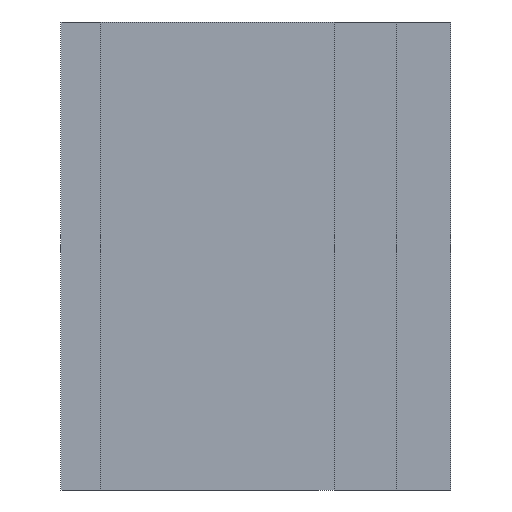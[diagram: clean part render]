
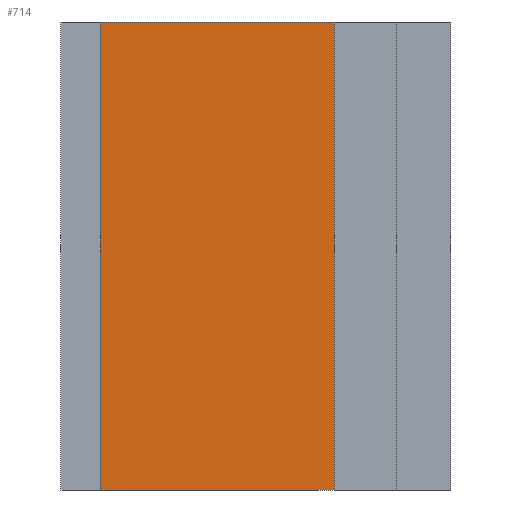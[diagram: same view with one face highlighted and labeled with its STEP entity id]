
A CAD part, left-side view. The second image highlights one B-rep face of the part: STEP entity #714.
In plain terms, the highlighted planar face has unit normal (-1, 0, 0) as drawn and (0, 0, -1) by its records, which use the part's own axes.
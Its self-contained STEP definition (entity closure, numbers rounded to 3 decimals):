
#40 = VERTEX_POINT('',#41);
#41 = CARTESIAN_POINT('',(-6.,14.,0.));
#50 = PLANE('',#51);
#51 = AXIS2_PLACEMENT_3D('',#52,#53,#54);
#52 = CARTESIAN_POINT('',(-6.,14.,0.));
#53 = DIRECTION('',(1.,0.,-0.));
#54 = DIRECTION('',(0.,0.,1.));
#62 = PLANE('',#63);
#63 = AXIS2_PLACEMENT_3D('',#64,#65,#66);
#64 = CARTESIAN_POINT('',(-6.,14.,0.));
#65 = DIRECTION('',(-0.,1.,0.));
#66 = DIRECTION('',(0.,0.,1.));
#74 = EDGE_CURVE('',#40,#75,#77,.T.);
#75 = VERTEX_POINT('',#76);
#76 = CARTESIAN_POINT('',(-6.,20.,0.));
#77 = SURFACE_CURVE('',#78,(#82,#89),.PCURVE_S1.);
#78 = LINE('',#79,#80);
#79 = CARTESIAN_POINT('',(-6.,14.,0.));
#80 = VECTOR('',#81,1.);
#81 = DIRECTION('',(-0.,1.,0.));
#82 = PCURVE('',#50,#83);
#83 = DEFINITIONAL_REPRESENTATION('',(#84),#88);
#84 = LINE('',#85,#86);
#85 = CARTESIAN_POINT('',(0.,0.));
#86 = VECTOR('',#87,1.);
#87 = DIRECTION('',(0.,-1.));
#88 = ( GEOMETRIC_REPRESENTATION_CONTEXT(2) 
PARAMETRIC_REPRESENTATION_CONTEXT() REPRESENTATION_CONTEXT('2D SPACE',''
  ) );
#89 = PCURVE('',#90,#95);
#90 = PLANE('',#91);
#91 = AXIS2_PLACEMENT_3D('',#92,#93,#94);
#92 = CARTESIAN_POINT('',(-6.,14.,0.));
#93 = DIRECTION('',(0.,0.,1.));
#94 = DIRECTION('',(1.,0.,-0.));
#95 = DEFINITIONAL_REPRESENTATION('',(#96),#100);
#96 = LINE('',#97,#98);
#97 = CARTESIAN_POINT('',(0.,0.));
#98 = VECTOR('',#99,1.);
#99 = DIRECTION('',(0.,1.));
#100 = ( GEOMETRIC_REPRESENTATION_CONTEXT(2) 
PARAMETRIC_REPRESENTATION_CONTEXT() REPRESENTATION_CONTEXT('2D SPACE',''
  ) );
#118 = PLANE('',#119);
#119 = AXIS2_PLACEMENT_3D('',#120,#121,#122);
#120 = CARTESIAN_POINT('',(-6.,20.,0.));
#121 = DIRECTION('',(-0.,1.,0.));
#122 = DIRECTION('',(0.,0.,1.));
#384 = VERTEX_POINT('',#385);
#385 = CARTESIAN_POINT('',(6.,14.,0.));
#401 = PLANE('',#402);
#402 = AXIS2_PLACEMENT_3D('',#403,#404,#405);
#403 = CARTESIAN_POINT('',(6.,14.,0.));
#404 = DIRECTION('',(1.,0.,-0.));
#405 = DIRECTION('',(0.,0.,1.));
#413 = EDGE_CURVE('',#40,#384,#414,.T.);
#414 = SURFACE_CURVE('',#415,(#419,#426),.PCURVE_S1.);
#415 = LINE('',#416,#417);
#416 = CARTESIAN_POINT('',(-6.,14.,0.));
#417 = VECTOR('',#418,1.);
#418 = DIRECTION('',(1.,0.,-0.));
#419 = PCURVE('',#62,#420);
#420 = DEFINITIONAL_REPRESENTATION('',(#421),#425);
#421 = LINE('',#422,#423);
#422 = CARTESIAN_POINT('',(0.,0.));
#423 = VECTOR('',#424,1.);
#424 = DIRECTION('',(0.,1.));
#425 = ( GEOMETRIC_REPRESENTATION_CONTEXT(2) 
PARAMETRIC_REPRESENTATION_CONTEXT() REPRESENTATION_CONTEXT('2D SPACE',''
  ) );
#426 = PCURVE('',#90,#427);
#427 = DEFINITIONAL_REPRESENTATION('',(#428),#432);
#428 = LINE('',#429,#430);
#429 = CARTESIAN_POINT('',(0.,0.));
#430 = VECTOR('',#431,1.);
#431 = DIRECTION('',(1.,0.));
#432 = ( GEOMETRIC_REPRESENTATION_CONTEXT(2) 
PARAMETRIC_REPRESENTATION_CONTEXT() REPRESENTATION_CONTEXT('2D SPACE',''
  ) );
#669 = EDGE_CURVE('',#75,#670,#672,.T.);
#670 = VERTEX_POINT('',#671);
#671 = CARTESIAN_POINT('',(6.,20.,0.));
#672 = SURFACE_CURVE('',#673,(#677,#684),.PCURVE_S1.);
#673 = LINE('',#674,#675);
#674 = CARTESIAN_POINT('',(-6.,20.,0.));
#675 = VECTOR('',#676,1.);
#676 = DIRECTION('',(1.,0.,-0.));
#677 = PCURVE('',#118,#678);
#678 = DEFINITIONAL_REPRESENTATION('',(#679),#683);
#679 = LINE('',#680,#681);
#680 = CARTESIAN_POINT('',(0.,0.));
#681 = VECTOR('',#682,1.);
#682 = DIRECTION('',(0.,1.));
#683 = ( GEOMETRIC_REPRESENTATION_CONTEXT(2) 
PARAMETRIC_REPRESENTATION_CONTEXT() REPRESENTATION_CONTEXT('2D SPACE',''
  ) );
#684 = PCURVE('',#90,#685);
#685 = DEFINITIONAL_REPRESENTATION('',(#686),#690);
#686 = LINE('',#687,#688);
#687 = CARTESIAN_POINT('',(0.,6.));
#688 = VECTOR('',#689,1.);
#689 = DIRECTION('',(1.,0.));
#690 = ( GEOMETRIC_REPRESENTATION_CONTEXT(2) 
PARAMETRIC_REPRESENTATION_CONTEXT() REPRESENTATION_CONTEXT('2D SPACE',''
  ) );
#714 = ADVANCED_FACE('',(#715),#90,.F.);
#715 = FACE_BOUND('',#716,.F.);
#716 = EDGE_LOOP('',(#717,#718,#719,#740));
#717 = ORIENTED_EDGE('',*,*,#74,.F.);
#718 = ORIENTED_EDGE('',*,*,#413,.T.);
#719 = ORIENTED_EDGE('',*,*,#720,.T.);
#720 = EDGE_CURVE('',#384,#670,#721,.T.);
#721 = SURFACE_CURVE('',#722,(#726,#733),.PCURVE_S1.);
#722 = LINE('',#723,#724);
#723 = CARTESIAN_POINT('',(6.,14.,0.));
#724 = VECTOR('',#725,1.);
#725 = DIRECTION('',(-0.,1.,0.));
#726 = PCURVE('',#90,#727);
#727 = DEFINITIONAL_REPRESENTATION('',(#728),#732);
#728 = LINE('',#729,#730);
#729 = CARTESIAN_POINT('',(12.,0.));
#730 = VECTOR('',#731,1.);
#731 = DIRECTION('',(0.,1.));
#732 = ( GEOMETRIC_REPRESENTATION_CONTEXT(2) 
PARAMETRIC_REPRESENTATION_CONTEXT() REPRESENTATION_CONTEXT('2D SPACE',''
  ) );
#733 = PCURVE('',#401,#734);
#734 = DEFINITIONAL_REPRESENTATION('',(#735),#739);
#735 = LINE('',#736,#737);
#736 = CARTESIAN_POINT('',(0.,0.));
#737 = VECTOR('',#738,1.);
#738 = DIRECTION('',(0.,-1.));
#739 = ( GEOMETRIC_REPRESENTATION_CONTEXT(2) 
PARAMETRIC_REPRESENTATION_CONTEXT() REPRESENTATION_CONTEXT('2D SPACE',''
  ) );
#740 = ORIENTED_EDGE('',*,*,#669,.F.);
